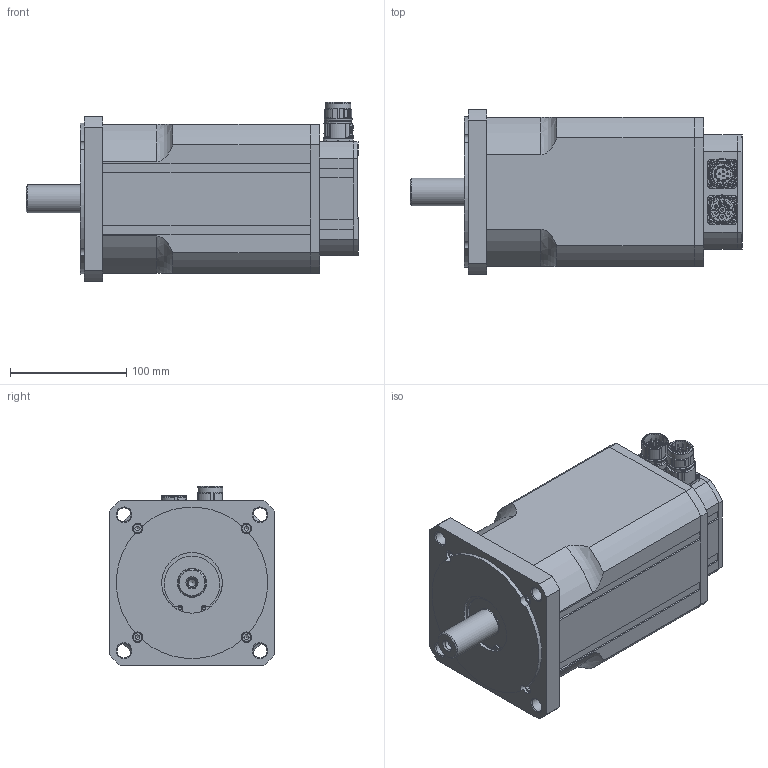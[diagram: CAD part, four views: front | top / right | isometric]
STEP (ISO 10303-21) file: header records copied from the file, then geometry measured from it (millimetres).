
FILE_DESCRIPTION(/* description */ (''),/* implementation_level */ '2;1');
FILE_NAME(/* name */ 'V:\5\N5075 00\3D Z\N5075 00 Z_2400_8P_12P.stp',/* time_stamp */ '2017-06-28T10:21:01+02:00',/* author */ ('simik'),/* organization */ (''),/* preprocessor_version */ 'ST-DEVELOPER v16.13',/* originating_system */ 'Autodesk Inventor 2018',/* authorisation */ '');
FILE_SCHEMA (('AUTOMOTIVE_DESIGN { 1 0 10303 214 3 1 1 }'));
Products named in the file (5): N5075 00 Z; N5075 00 Z_front; N5075 00 Z_2400; 127331; 127344
Assembly tree (4 placements, depth 2):
  N5075 00 Z
    N5075 00 Z_front
    N5075 00 Z_2400
    127331
    127344
Bounding box: 285 x 142 x 153.75 mm (x, y, z)
Volume: 1367553 mm3; surface area: 299807.1 mm2
Topology: 4 solids, 4 shells, 1828 faces, 4455 edges, 2742 vertices
Faces by surface type: cylinder 783, plane 556, bspline 164, torus 146, cone 140, sphere 39
Full cylindrical faces by diameter (mm): 1 x16, 1.18 x12, 1.3 x4, 2 x4, 2.013 x4, 2.15 x4, 2.208 x8, 2.4 x8, 2.459 x10, 2.5 x10, 2.7 x8, 3 x4, 3.242 x1, 3.3 x4, 3.95 x4, 4.134 x4, 5 x12, 5.3 x4, 5.8 x1, 6.5 x4, 6.647 x1, 6.8 x1, 8 x4, 8.4 x1, 8.5 x12, 9 x8, 12 x4, 16 x1, 17.1 x1, 17.4 x1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
Entity records: 61543 total; most frequent: CARTESIAN_POINT 19025, DIRECTION 8726, ORIENTED_EDGE 8060, EDGE_CURVE 3958, AXIS2_PLACEMENT_3D 3689, VERTEX_POINT 2584, EDGE_LOOP 2306, CIRCLE 1875
